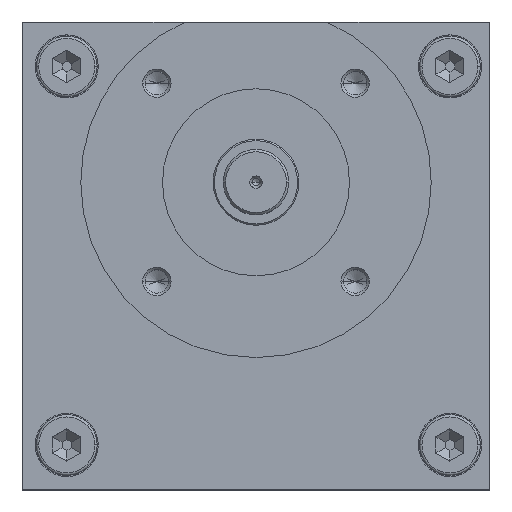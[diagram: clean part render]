
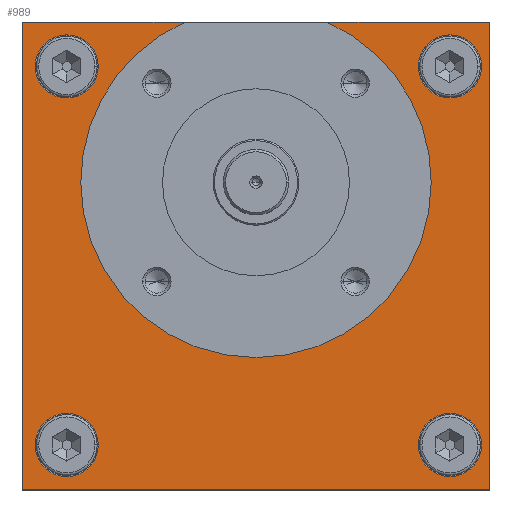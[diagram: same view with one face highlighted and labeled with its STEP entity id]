
A CAD part, top view. The second image highlights one B-rep face of the part: STEP entity #989.
In plain terms, the highlighted planar face has unit normal (0, 0, 1).
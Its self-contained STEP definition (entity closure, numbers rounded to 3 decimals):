
#105 = VERTEX_POINT ( 'NONE', #1836 ) ;
#115 = EDGE_CURVE ( 'NONE', #381, #125, #1859, .T. ) ;
#125 = VERTEX_POINT ( 'NONE', #1905 ) ;
#137 = EDGE_CURVE ( 'NONE', #138, #105, #1916, .T. ) ;
#138 = VERTEX_POINT ( 'NONE', #1919 ) ;
#143 = EDGE_CURVE ( 'NONE', #376, #153, #1926, .T. ) ;
#153 = VERTEX_POINT ( 'NONE', #1943 ) ;
#185 = VERTEX_POINT ( 'NONE', #2022 ) ;
#193 = VERTEX_POINT ( 'NONE', #2059 ) ;
#199 = EDGE_CURVE ( 'NONE', #224, #229, #2057, .T. ) ;
#208 = EDGE_CURVE ( 'NONE', #193, #224, #2079, .T. ) ;
#224 = VERTEX_POINT ( 'NONE', #2117 ) ;
#229 = VERTEX_POINT ( 'NONE', #2080 ) ;
#239 = VERTEX_POINT ( 'NONE', #2115 ) ;
#243 = EDGE_CURVE ( 'NONE', #239, #185, #2107, .T. ) ;
#376 = VERTEX_POINT ( 'NONE', #2432 ) ;
#381 = VERTEX_POINT ( 'NONE', #2411 ) ;
#989 = ADVANCED_FACE ( 'NONE', ( #3549, #3560, #3554, #3513, #3512 ), #3562, .F. ) ;
#990 = ORIENTED_EDGE ( 'NONE', *, *, #994, .F. ) ;
#991 = ORIENTED_EDGE ( 'NONE', *, *, #115, .F. ) ;
#992 = ORIENTED_EDGE ( 'NONE', *, *, #1017, .F. ) ;
#993 = ORIENTED_EDGE ( 'NONE', *, *, #999, .F. ) ;
#994 = EDGE_CURVE ( 'NONE', #105, #138, #3547, .T. ) ;
#995 = ORIENTED_EDGE ( 'NONE', *, *, #137, .F. ) ;
#996 = EDGE_LOOP ( 'NONE', ( #997, #1043 ) ) ;
#997 = ORIENTED_EDGE ( 'NONE', *, *, #998, .F. ) ;
#998 = EDGE_CURVE ( 'NONE', #185, #239, #3522, .T. ) ;
#999 = EDGE_CURVE ( 'NONE', #153, #376, #3539, .T. ) ;
#1000 = EDGE_LOOP ( 'NONE', ( #1001, #1047, #1002, #1049, #1027, #1028, #1024, #1029 ) ) ;
#1001 = ORIENTED_EDGE ( 'NONE', *, *, #1044, .F. ) ;
#1002 = ORIENTED_EDGE ( 'NONE', *, *, #1048, .T. ) ;
#1003 = ORIENTED_EDGE ( 'NONE', *, *, #143, .F. ) ;
#1017 = EDGE_CURVE ( 'NONE', #125, #381, #3572, .T. ) ;
#1021 = EDGE_LOOP ( 'NONE', ( #993, #1003 ) ) ;
#1022 = EDGE_CURVE ( 'NONE', #1025, #229, #3620, .T. ) ;
#1023 = EDGE_LOOP ( 'NONE', ( #990, #995 ) ) ;
#1024 = ORIENTED_EDGE ( 'NONE', *, *, #199, .F. ) ;
#1025 = VERTEX_POINT ( 'NONE', #3570 ) ;
#1026 = EDGE_CURVE ( 'NONE', #1032, #1025, #3576, .T. ) ;
#1027 = ORIENTED_EDGE ( 'NONE', *, *, #1026, .T. ) ;
#1028 = ORIENTED_EDGE ( 'NONE', *, *, #1022, .T. ) ;
#1029 = ORIENTED_EDGE ( 'NONE', *, *, #208, .F. ) ;
#1032 = VERTEX_POINT ( 'NONE', #3679 ) ;
#1041 = VERTEX_POINT ( 'NONE', #3666 ) ;
#1042 = VERTEX_POINT ( 'NONE', #3672 ) ;
#1043 = ORIENTED_EDGE ( 'NONE', *, *, #243, .F. ) ;
#1044 = EDGE_CURVE ( 'NONE', #1041, #193, #3659, .T. ) ;
#1045 = EDGE_CURVE ( 'NONE', #1041, #1042, #3660, .T. ) ;
#1046 = VERTEX_POINT ( 'NONE', #3653 ) ;
#1047 = ORIENTED_EDGE ( 'NONE', *, *, #1045, .T. ) ;
#1048 = EDGE_CURVE ( 'NONE', #1042, #1046, #3722, .T. ) ;
#1049 = ORIENTED_EDGE ( 'NONE', *, *, #1050, .T. ) ;
#1050 = EDGE_CURVE ( 'NONE', #1046, #1032, #3682, .T. ) ;
#1076 = EDGE_LOOP ( 'NONE', ( #992, #991 ) ) ;
#1836 = CARTESIAN_POINT ( 'NONE',  ( -33.75, 40.5, 0. ) ) ;
#1846 = DIRECTION ( 'NONE',  ( 1., 0., 0. ) ) ;
#1847 = AXIS2_PLACEMENT_3D ( 'NONE', #1851, #1863, #1846 ) ;
#1851 = CARTESIAN_POINT ( 'NONE',  ( 41.5, 40.5, 0. ) ) ;
#1859 = CIRCLE ( 'NONE', #1847, 6.75 ) ;
#1863 = DIRECTION ( 'NONE',  ( 0., 0., 1. ) ) ;
#1905 = CARTESIAN_POINT ( 'NONE',  ( 48.25, 40.5, 0. ) ) ;
#1910 = CARTESIAN_POINT ( 'NONE',  ( 41.5, -40.5, 0. ) ) ;
#1911 = AXIS2_PLACEMENT_3D ( 'NONE', #1910, #1968, #1966 ) ;
#1914 = DIRECTION ( 'NONE',  ( 1., 0., 0. ) ) ;
#1915 = AXIS2_PLACEMENT_3D ( 'NONE', #1925, #1930, #1914 ) ;
#1916 = CIRCLE ( 'NONE', #1915, 6.75 ) ;
#1919 = CARTESIAN_POINT ( 'NONE',  ( -47.25, 40.5, 0. ) ) ;
#1925 = CARTESIAN_POINT ( 'NONE',  ( -40.5, 40.5, 0. ) ) ;
#1926 = CIRCLE ( 'NONE', #1911, 6.75 ) ;
#1930 = DIRECTION ( 'NONE',  ( 0., 0., 1. ) ) ;
#1943 = CARTESIAN_POINT ( 'NONE',  ( 48.25, -40.5, 0. ) ) ;
#1966 = DIRECTION ( 'NONE',  ( 1., 0., 0. ) ) ;
#1968 = DIRECTION ( 'NONE',  ( 0., 0., 1. ) ) ;
#2004 = CARTESIAN_POINT ( 'NONE',  ( 0., 15.7, 0. ) ) ;
#2022 = CARTESIAN_POINT ( 'NONE',  ( -33.75, -40.5, 0. ) ) ;
#2042 = DIRECTION ( 'NONE',  ( 1., 0., 0. ) ) ;
#2043 = DIRECTION ( 'NONE',  ( 0., 0., 1. ) ) ;
#2047 = AXIS2_PLACEMENT_3D ( 'NONE', #2004, #2043, #2042 ) ;
#2057 = CIRCLE ( 'NONE', #2047, 37.5 ) ;
#2059 = CARTESIAN_POINT ( 'NONE',  ( -37.5, 15.7, 0. ) ) ;
#2075 = DIRECTION ( 'NONE',  ( 1., 0., 0. ) ) ;
#2076 = DIRECTION ( 'NONE',  ( 0., 0., 1. ) ) ;
#2077 = CARTESIAN_POINT ( 'NONE',  ( 0., 15.7, 0. ) ) ;
#2078 = AXIS2_PLACEMENT_3D ( 'NONE', #2077, #2076, #2075 ) ;
#2079 = CIRCLE ( 'NONE', #2078, 37.5 ) ;
#2080 = CARTESIAN_POINT ( 'NONE',  ( 15.158, 50., 0. ) ) ;
#2095 = CARTESIAN_POINT ( 'NONE',  ( -40.5, -40.5, 0. ) ) ;
#2107 = CIRCLE ( 'NONE', #2156, 6.75 ) ;
#2115 = CARTESIAN_POINT ( 'NONE',  ( -47.25, -40.5, 0. ) ) ;
#2117 = CARTESIAN_POINT ( 'NONE',  ( 37.5, 15.7, 0. ) ) ;
#2149 = DIRECTION ( 'NONE',  ( 1., 0., 0. ) ) ;
#2150 = DIRECTION ( 'NONE',  ( 0., 0., 1. ) ) ;
#2156 = AXIS2_PLACEMENT_3D ( 'NONE', #2095, #2150, #2149 ) ;
#2411 = CARTESIAN_POINT ( 'NONE',  ( 34.75, 40.5, 0. ) ) ;
#2432 = CARTESIAN_POINT ( 'NONE',  ( 34.75, -40.5, 0. ) ) ;
#3508 = AXIS2_PLACEMENT_3D ( 'NONE', #3545, #3538, #3537 ) ;
#3511 = AXIS2_PLACEMENT_3D ( 'NONE', #3544, #3543, #3542 ) ;
#3512 = FACE_OUTER_BOUND ( 'NONE', #1000, .T. ) ;
#3513 = FACE_BOUND ( 'NONE', #996, .T. ) ;
#3522 = CIRCLE ( 'NONE', #3594, 6.75 ) ;
#3534 = CARTESIAN_POINT ( 'NONE',  ( -40.5, -40.5, 0. ) ) ;
#3536 = AXIS2_PLACEMENT_3D ( 'NONE', #3541, #3587, #3586 ) ;
#3537 = DIRECTION ( 'NONE',  ( 1., 0., 0. ) ) ;
#3538 = DIRECTION ( 'NONE',  ( 0., 0., 1. ) ) ;
#3539 = CIRCLE ( 'NONE', #3536, 6.75 ) ;
#3540 = DIRECTION ( 'NONE',  ( 0., 0., 1. ) ) ;
#3541 = CARTESIAN_POINT ( 'NONE',  ( 41.5, -40.5, 0. ) ) ;
#3542 = DIRECTION ( 'NONE',  ( -1., 0., 0. ) ) ;
#3543 = DIRECTION ( 'NONE',  ( 0., 0., -1. ) ) ;
#3544 = CARTESIAN_POINT ( 'NONE',  ( 50., 50., 0. ) ) ;
#3545 = CARTESIAN_POINT ( 'NONE',  ( -40.5, 40.5, 0. ) ) ;
#3547 = CIRCLE ( 'NONE', #3508, 6.75 ) ;
#3549 = FACE_BOUND ( 'NONE', #1076, .T. ) ;
#3554 = FACE_BOUND ( 'NONE', #1021, .T. ) ;
#3560 = FACE_BOUND ( 'NONE', #1023, .T. ) ;
#3562 = PLANE ( 'NONE',  #3511 ) ;
#3566 = AXIS2_PLACEMENT_3D ( 'NONE', #3569, #3571, #3622 ) ;
#3569 = CARTESIAN_POINT ( 'NONE',  ( 41.5, 40.5, 0. ) ) ;
#3570 = CARTESIAN_POINT ( 'NONE',  ( 50., 50., 0. ) ) ;
#3571 = DIRECTION ( 'NONE',  ( 0., 0., 1. ) ) ;
#3572 = CIRCLE ( 'NONE', #3566, 6.75 ) ;
#3575 = CARTESIAN_POINT ( 'NONE',  ( 50., -50., 0. ) ) ;
#3576 = LINE ( 'NONE', #3575, #3612 ) ;
#3586 = DIRECTION ( 'NONE',  ( 1., 0., 0. ) ) ;
#3587 = DIRECTION ( 'NONE',  ( 0., 0., 1. ) ) ;
#3593 = DIRECTION ( 'NONE',  ( 1., 0., 0. ) ) ;
#3594 = AXIS2_PLACEMENT_3D ( 'NONE', #3534, #3540, #3593 ) ;
#3611 = DIRECTION ( 'NONE',  ( 0., 1., 0. ) ) ;
#3612 = VECTOR ( 'NONE', #3611, 1000. ) ;
#3617 = DIRECTION ( 'NONE',  ( -1., 0., 0. ) ) ;
#3618 = VECTOR ( 'NONE', #3617, 1000. ) ;
#3619 = CARTESIAN_POINT ( 'NONE',  ( -50., 50., 0. ) ) ;
#3620 = LINE ( 'NONE', #3619, #3618 ) ;
#3622 = DIRECTION ( 'NONE',  ( 1., 0., 0. ) ) ;
#3651 = DIRECTION ( 'NONE',  ( -1., 0., 0. ) ) ;
#3652 = VECTOR ( 'NONE', #3651, 1000. ) ;
#3653 = CARTESIAN_POINT ( 'NONE',  ( -50., -50., 0. ) ) ;
#3655 = DIRECTION ( 'NONE',  ( 1., 0., 0. ) ) ;
#3656 = DIRECTION ( 'NONE',  ( 0., 0., 1. ) ) ;
#3657 = CARTESIAN_POINT ( 'NONE',  ( 0., 15.7, 0. ) ) ;
#3658 = AXIS2_PLACEMENT_3D ( 'NONE', #3657, #3656, #3655 ) ;
#3659 = CIRCLE ( 'NONE', #3658, 37.5 ) ;
#3660 = LINE ( 'NONE', #3661, #3652 ) ;
#3661 = CARTESIAN_POINT ( 'NONE',  ( -50., 50., 0. ) ) ;
#3666 = CARTESIAN_POINT ( 'NONE',  ( -15.158, 50., 0. ) ) ;
#3672 = CARTESIAN_POINT ( 'NONE',  ( -50., 50., 0. ) ) ;
#3679 = CARTESIAN_POINT ( 'NONE',  ( 50., -50., 0. ) ) ;
#3681 = CARTESIAN_POINT ( 'NONE',  ( -50., -50., 0. ) ) ;
#3682 = LINE ( 'NONE', #3681, #3713 ) ;
#3712 = DIRECTION ( 'NONE',  ( 1., 0., 0. ) ) ;
#3713 = VECTOR ( 'NONE', #3712, 1000. ) ;
#3717 = DIRECTION ( 'NONE',  ( 0., -1., 0. ) ) ;
#3718 = VECTOR ( 'NONE', #3717, 1000. ) ;
#3721 = CARTESIAN_POINT ( 'NONE',  ( -50., -50., 0. ) ) ;
#3722 = LINE ( 'NONE', #3721, #3718 ) ;
